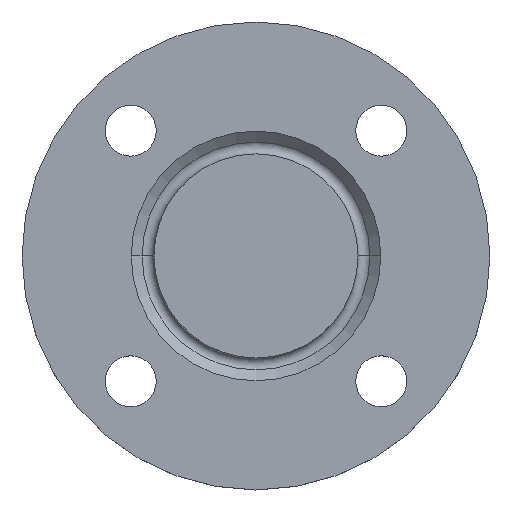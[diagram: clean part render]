
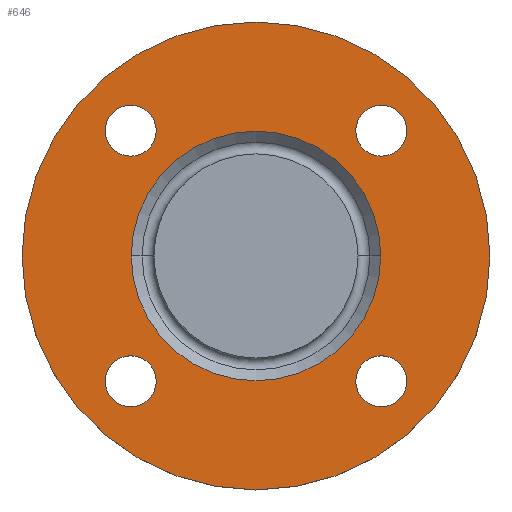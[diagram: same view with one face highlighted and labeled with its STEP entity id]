
A CAD part, top view. The second image highlights one B-rep face of the part: STEP entity #646.
In plain terms, the highlighted planar face has unit normal (0, 0, 1).
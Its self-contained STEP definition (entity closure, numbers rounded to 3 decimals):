
#12 = AXIS2_PLACEMENT_3D ( 'NONE', #421, #365, #125 ) ;
#13 = CIRCLE ( 'NONE', #535, 9. ) ;
#17 = DIRECTION ( 'NONE',  ( -1., 0., 0. ) ) ;
#31 = EDGE_CURVE ( 'NONE', #462, #593, #698, .T. ) ;
#37 = EDGE_CURVE ( 'NONE', #121, #672, #533, .T. ) ;
#40 = CARTESIAN_POINT ( 'NONE',  ( 44.194, -44.194, -2. ) ) ;
#44 = DIRECTION ( 'NONE',  ( 0., 0., -1. ) ) ;
#56 = PLANE ( 'NONE',  #455 ) ;
#89 = EDGE_CURVE ( 'NONE', #671, #355, #338, .T. ) ;
#96 = DIRECTION ( 'NONE',  ( 1., 0., 0. ) ) ;
#104 = AXIS2_PLACEMENT_3D ( 'NONE', #344, #44, #525 ) ;
#107 = VERTEX_POINT ( 'NONE', #337 ) ;
#112 = FACE_OUTER_BOUND ( 'NONE', #212, .T. ) ;
#119 = CARTESIAN_POINT ( 'NONE',  ( -53.194, 44.194, -2. ) ) ;
#121 = VERTEX_POINT ( 'NONE', #153 ) ;
#125 = DIRECTION ( 'NONE',  ( 1., 0., 0. ) ) ;
#126 = EDGE_CURVE ( 'NONE', #664, #384, #653, .T. ) ;
#132 = FACE_BOUND ( 'NONE', #363, .T. ) ;
#134 = DIRECTION ( 'NONE',  ( 1., 0., 0. ) ) ;
#139 = DIRECTION ( 'NONE',  ( 0., 0., -1. ) ) ;
#140 = CARTESIAN_POINT ( 'NONE',  ( -44.194, 44.194, -2. ) ) ;
#152 = DIRECTION ( 'NONE',  ( 0., 0., -1. ) ) ;
#153 = CARTESIAN_POINT ( 'NONE',  ( -53.194, -44.194, -2. ) ) ;
#155 = ORIENTED_EDGE ( 'NONE', *, *, #247, .T. ) ;
#157 = AXIS2_PLACEMENT_3D ( 'NONE', #635, #404, #583 ) ;
#166 = EDGE_CURVE ( 'NONE', #107, #367, #673, .T. ) ;
#175 = CARTESIAN_POINT ( 'NONE',  ( 82.5, 0., -2. ) ) ;
#177 = ORIENTED_EDGE ( 'NONE', *, *, #183, .F. ) ;
#183 = EDGE_CURVE ( 'NONE', #593, #462, #346, .T. ) ;
#197 = ORIENTED_EDGE ( 'NONE', *, *, #622, .T. ) ;
#210 = EDGE_LOOP ( 'NONE', ( #155, #709 ) ) ;
#212 = EDGE_LOOP ( 'NONE', ( #177, #443 ) ) ;
#214 = CARTESIAN_POINT ( 'NONE',  ( -44.194, 44.194, -2. ) ) ;
#223 = ORIENTED_EDGE ( 'NONE', *, *, #347, .T. ) ;
#231 = EDGE_CURVE ( 'NONE', #385, #508, #496, .T. ) ;
#234 = FACE_BOUND ( 'NONE', #750, .T. ) ;
#247 = EDGE_CURVE ( 'NONE', #672, #121, #13, .T. ) ;
#250 = DIRECTION ( 'NONE',  ( 0., 0., -1. ) ) ;
#251 = CARTESIAN_POINT ( 'NONE',  ( 0., 0., -2. ) ) ;
#255 = CIRCLE ( 'NONE', #686, 9. ) ;
#256 = DIRECTION ( 'NONE',  ( -1., 0., 0. ) ) ;
#261 = CARTESIAN_POINT ( 'NONE',  ( 44.194, 44.194, -2. ) ) ;
#295 = DIRECTION ( 'NONE',  ( 0., 0., 1. ) ) ;
#304 = CARTESIAN_POINT ( 'NONE',  ( -35.194, -44.194, -2. ) ) ;
#311 = DIRECTION ( 'NONE',  ( 1., 0., 0. ) ) ;
#330 = EDGE_LOOP ( 'NONE', ( #744, #223 ) ) ;
#334 = ORIENTED_EDGE ( 'NONE', *, *, #388, .T. ) ;
#337 = CARTESIAN_POINT ( 'NONE',  ( 53.194, -44.194, -2. ) ) ;
#338 = CIRCLE ( 'NONE', #728, 9. ) ;
#341 = EDGE_LOOP ( 'NONE', ( #403, #197 ) ) ;
#344 = CARTESIAN_POINT ( 'NONE',  ( 0., 0., -2. ) ) ;
#346 = CIRCLE ( 'NONE', #104, 82.5 ) ;
#347 = EDGE_CURVE ( 'NONE', #367, #107, #674, .T. ) ;
#355 = VERTEX_POINT ( 'NONE', #600 ) ;
#357 = FACE_BOUND ( 'NONE', #341, .T. ) ;
#363 = EDGE_LOOP ( 'NONE', ( #625, #619 ) ) ;
#365 = DIRECTION ( 'NONE',  ( 0., 0., -1. ) ) ;
#367 = VERTEX_POINT ( 'NONE', #369 ) ;
#369 = CARTESIAN_POINT ( 'NONE',  ( 35.194, -44.194, -2. ) ) ;
#380 = DIRECTION ( 'NONE',  ( 0., 0., -1. ) ) ;
#384 = VERTEX_POINT ( 'NONE', #662 ) ;
#385 = VERTEX_POINT ( 'NONE', #430 ) ;
#388 = EDGE_CURVE ( 'NONE', #508, #385, #406, .T. ) ;
#403 = ORIENTED_EDGE ( 'NONE', *, *, #89, .T. ) ;
#404 = DIRECTION ( 'NONE',  ( 0., 0., -1. ) ) ;
#406 = CIRCLE ( 'NONE', #456, 44. ) ;
#413 = FACE_BOUND ( 'NONE', #210, .T. ) ;
#419 = AXIS2_PLACEMENT_3D ( 'NONE', #488, #718, #134 ) ;
#421 = CARTESIAN_POINT ( 'NONE',  ( 44.194, -44.194, -2. ) ) ;
#430 = CARTESIAN_POINT ( 'NONE',  ( -44., 0., -2. ) ) ;
#439 = CARTESIAN_POINT ( 'NONE',  ( -82.5, 0., -2. ) ) ;
#443 = ORIENTED_EDGE ( 'NONE', *, *, #31, .F. ) ;
#450 = CARTESIAN_POINT ( 'NONE',  ( 44.194, 44.194, -2. ) ) ;
#455 = AXIS2_PLACEMENT_3D ( 'NONE', #590, #295, #536 ) ;
#456 = AXIS2_PLACEMENT_3D ( 'NONE', #715, #250, #256 ) ;
#462 = VERTEX_POINT ( 'NONE', #439 ) ;
#469 = DIRECTION ( 'NONE',  ( 0., 0., -1. ) ) ;
#479 = EDGE_CURVE ( 'NONE', #384, #664, #483, .T. ) ;
#483 = CIRCLE ( 'NONE', #524, 9. ) ;
#488 = CARTESIAN_POINT ( 'NONE',  ( -44.194, -44.194, -2. ) ) ;
#496 = CIRCLE ( 'NONE', #157, 44. ) ;
#502 = AXIS2_PLACEMENT_3D ( 'NONE', #251, #565, #17 ) ;
#508 = VERTEX_POINT ( 'NONE', #722 ) ;
#521 = DIRECTION ( 'NONE',  ( 1., 0., 0. ) ) ;
#524 = AXIS2_PLACEMENT_3D ( 'NONE', #140, #380, #563 ) ;
#525 = DIRECTION ( 'NONE',  ( -1., 0., 0. ) ) ;
#528 = CARTESIAN_POINT ( 'NONE',  ( -44.194, -44.194, -2. ) ) ;
#533 = CIRCLE ( 'NONE', #419, 9. ) ;
#535 = AXIS2_PLACEMENT_3D ( 'NONE', #528, #469, #743 ) ;
#536 = DIRECTION ( 'NONE',  ( 1., 0., 0. ) ) ;
#540 = CARTESIAN_POINT ( 'NONE',  ( 53.194, 44.194, -2. ) ) ;
#552 = AXIS2_PLACEMENT_3D ( 'NONE', #40, #580, #521 ) ;
#563 = DIRECTION ( 'NONE',  ( 1., 0., 0. ) ) ;
#565 = DIRECTION ( 'NONE',  ( 0., 0., -1. ) ) ;
#580 = DIRECTION ( 'NONE',  ( 0., 0., -1. ) ) ;
#583 = DIRECTION ( 'NONE',  ( -1., 0., 0. ) ) ;
#590 = CARTESIAN_POINT ( 'NONE',  ( 82.5, 0., -2. ) ) ;
#593 = VERTEX_POINT ( 'NONE', #175 ) ;
#600 = CARTESIAN_POINT ( 'NONE',  ( 35.194, 44.194, -2. ) ) ;
#619 = ORIENTED_EDGE ( 'NONE', *, *, #126, .T. ) ;
#622 = EDGE_CURVE ( 'NONE', #355, #671, #255, .T. ) ;
#625 = ORIENTED_EDGE ( 'NONE', *, *, #479, .T. ) ;
#635 = CARTESIAN_POINT ( 'NONE',  ( 0., 0., -2. ) ) ;
#643 = FACE_BOUND ( 'NONE', #330, .T. ) ;
#646 = ADVANCED_FACE ( 'NONE', ( #643, #413, #132, #357, #234, #112 ), #56, .T. ) ;
#653 = CIRCLE ( 'NONE', #738, 9. ) ;
#662 = CARTESIAN_POINT ( 'NONE',  ( -35.194, 44.194, -2. ) ) ;
#664 = VERTEX_POINT ( 'NONE', #119 ) ;
#671 = VERTEX_POINT ( 'NONE', #540 ) ;
#672 = VERTEX_POINT ( 'NONE', #304 ) ;
#673 = CIRCLE ( 'NONE', #552, 9. ) ;
#674 = CIRCLE ( 'NONE', #12, 9. ) ;
#681 = ORIENTED_EDGE ( 'NONE', *, *, #231, .T. ) ;
#682 = DIRECTION ( 'NONE',  ( 1., 0., 0. ) ) ;
#683 = DIRECTION ( 'NONE',  ( 0., 0., -1. ) ) ;
#686 = AXIS2_PLACEMENT_3D ( 'NONE', #450, #152, #682 ) ;
#698 = CIRCLE ( 'NONE', #502, 82.5 ) ;
#709 = ORIENTED_EDGE ( 'NONE', *, *, #37, .T. ) ;
#715 = CARTESIAN_POINT ( 'NONE',  ( 0., 0., -2. ) ) ;
#718 = DIRECTION ( 'NONE',  ( 0., 0., -1. ) ) ;
#722 = CARTESIAN_POINT ( 'NONE',  ( 44., 0., -2. ) ) ;
#728 = AXIS2_PLACEMENT_3D ( 'NONE', #261, #139, #311 ) ;
#738 = AXIS2_PLACEMENT_3D ( 'NONE', #214, #683, #96 ) ;
#743 = DIRECTION ( 'NONE',  ( 1., 0., 0. ) ) ;
#744 = ORIENTED_EDGE ( 'NONE', *, *, #166, .T. ) ;
#750 = EDGE_LOOP ( 'NONE', ( #334, #681 ) ) ;
